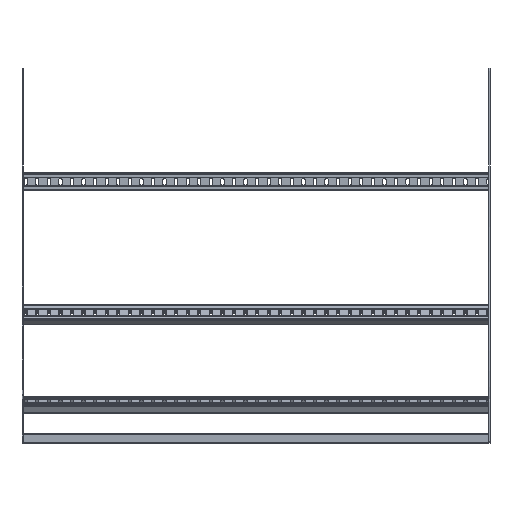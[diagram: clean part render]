
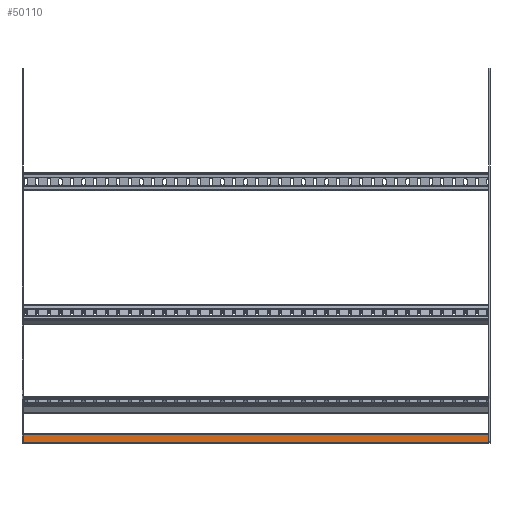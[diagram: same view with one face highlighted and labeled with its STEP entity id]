
A CAD part, front view. The second image highlights one B-rep face of the part: STEP entity #50110.
In plain terms, the highlighted planar face has unit normal (0, -1, 0) as drawn and (-1, 0, 0) by its records, which use the part's own axes.
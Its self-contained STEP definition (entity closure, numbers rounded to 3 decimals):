
#49720=CARTESIAN_POINT('',(-1.194,-4.267,-100.));
#49730=DIRECTION('',(-1.,0.,0.));
#49740=DIRECTION('',(0.,1.,0.));
#49750=AXIS2_PLACEMENT_3D('',#49720,#49730,#49740);
#49760=PLANE('',#49750);
#49770=CARTESIAN_POINT('',(-1.194,0.,930.));
#49780=DIRECTION('',(0.,-1.,0.));
#49790=VECTOR('',#49780,1.);
#49800=LINE('',#49770,#49790);
#49810=CARTESIAN_POINT('',(-1.194,14.733,930.));
#49820=VERTEX_POINT('',#49810);
#49830=CARTESIAN_POINT('',(-1.194,-1.267,930.));
#49840=VERTEX_POINT('',#49830);
#49850=EDGE_CURVE('',#49820,#49840,#49800,.T.);
#49860=ORIENTED_EDGE('',*,*,#49850,.F.);
#49870=CARTESIAN_POINT('',(-1.194,-1.267,-100.));
#49880=DIRECTION('',(0.,0.,1.));
#49890=VECTOR('',#49880,1.);
#49900=LINE('',#49870,#49890);
#49910=CARTESIAN_POINT('',(-1.194,-1.267,-75.));
#49920=VERTEX_POINT('',#49910);
#49930=EDGE_CURVE('',#49920,#49840,#49900,.T.);
#49940=ORIENTED_EDGE('',*,*,#49930,.T.);
#49950=CARTESIAN_POINT('',(-1.194,17.733,-75.));
#49960=DIRECTION('',(0.,-1.,0.));
#49970=VECTOR('',#49960,1.);
#49980=LINE('',#49950,#49970);
#49990=CARTESIAN_POINT('',(-1.194,14.733,-75.));
#50000=VERTEX_POINT('',#49990);
#50010=EDGE_CURVE('',#50000,#49920,#49980,.T.);
#50020=ORIENTED_EDGE('',*,*,#50010,.T.);
#50030=CARTESIAN_POINT('',(-1.194,14.733,0.));
#50040=DIRECTION('',(0.,0.,1.));
#50050=VECTOR('',#50040,1.);
#50060=LINE('',#50030,#50050);
#50070=EDGE_CURVE('',#50000,#49820,#50060,.T.);
#50080=ORIENTED_EDGE('',*,*,#50070,.F.);
#50090=EDGE_LOOP('',(#50080,#50020,#49940,#49860));
#50100=FACE_OUTER_BOUND('',#50090,.T.);
#50110=ADVANCED_FACE('',(#50100),#49760,.T.);
